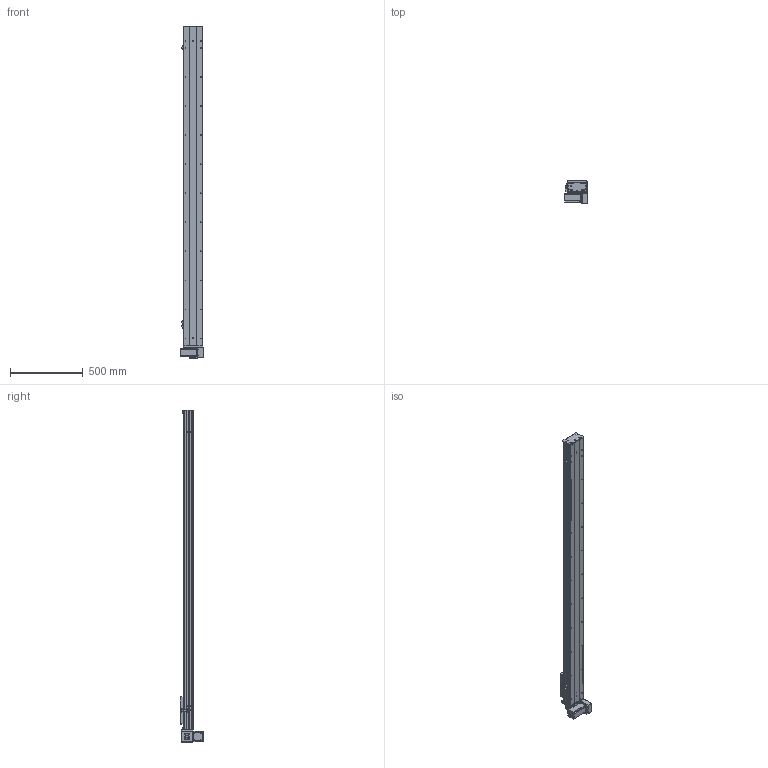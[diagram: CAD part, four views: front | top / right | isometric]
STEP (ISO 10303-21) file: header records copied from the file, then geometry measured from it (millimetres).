
FILE_DESCRIPTION (( 'STEP AP203' ), '1' );
FILE_NAME ('Y135CB-D90-S1900-BM-P400W.STEP', '2020-02-19T01:38:23', ( '微软用户' ), ( '微软中国' ), 'SwSTEP 2.0', 'SolidWorks 2017', '' );
FILE_SCHEMA (( 'CONFIG_CONTROL_DESIGN' ));
Length unit declared in the file: millimetre
Products named in the file (18): 00B-俋欶BM--; 5CB --掛极耜裔啣-; C-詩湍揤踡え-陔; Y135CB-耜裔; 135CB--詩湍-CE; 135CB---遴掛极.-; Y100-135俋离換覜ん--; 35CB---喘謫眊楊擘啣; Y135C-陔俋离換覜結え-; 0B-埴倛裔啣; 5C--俋欶; 0B-源倛裔啣; Y10B-耜蚾蟀諉啣----; C-雄赽釱--; 0B-萇儂楊擘啣; Y135CB-D90-S1900-BM-P400W; Y10B--々湍喘謫眊--666; san松下电机400不带刹车----
Assembly tree (21 placements, depth 2):
  Y135CB-D90-S1900-BM-P400W
    Y135CB-耜裔
    135CB---遴掛极.-
    35CB---喘謫眊楊擘啣
    0B-埴倛裔啣
    0B-源倛裔啣
    0B-萇儂楊擘啣
    san松下电机400不带刹车----
    5CB --掛极耜裔啣-  x2
    C-詩湍揤踡え-陔  x2
    135CB--詩湍-CE
    Y100-135俋离換覜ん--  x3
    Y135C-陔俋离換覜結え-
    5C--俋欶
    C-雄赽釱--
    Y10B--々湍喘謫眊--666
    00B-俋欶BM--
    Y10B-耜蚾蟀諉啣----
Bounding box: 157 x 163.3 x 2288 mm (x, y, z)
Volume: 6723558.9 mm3; surface area: 2654541.8 mm2
Topology: 21 solids, 21 shells, 965 faces, 2617 edges, 1734 vertices
Faces by surface type: cylinder 493, plane 456, cone 16
Entity records: 30359 total; most frequent: DIRECTION 5045, CARTESIAN_POINT 5032, ORIENTED_EDGE 4710, EDGE_CURVE 2355, AXIS2_PLACEMENT_3D 1847, VERTEX_POINT 1562, VECTOR 1351, LINE 1351
